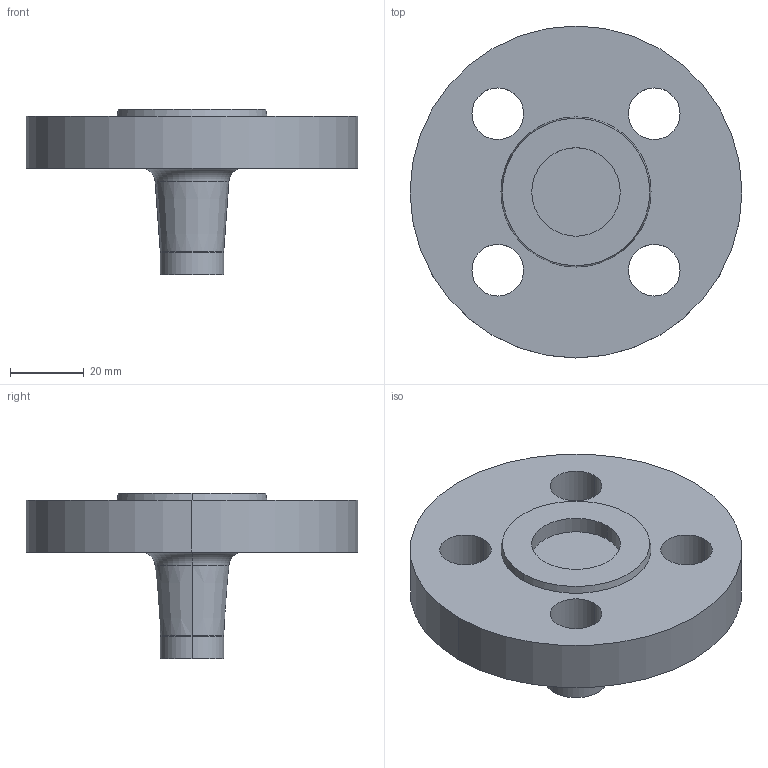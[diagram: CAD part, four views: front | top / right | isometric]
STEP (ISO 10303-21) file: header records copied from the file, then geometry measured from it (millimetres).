
FILE_DESCRIPTION (( 'STEP AP214' ), '1' );
FILE_NAME ('PN40 DN10 Type 21(ii) - Type G Face.STEP', '2018-12-29T05:04:22', ( '' ), ( '' ), 'SwSTEP 2.0', 'SolidWorks 2019', '' );
FILE_SCHEMA (( 'AUTOMOTIVE_DESIGN' ));
Length unit declared in the file: millimetre
Products named in the file (1): PN40 DN10 Type 21(ii) - Type G Face
Bounding box: 90 x 90 x 45 mm (x, y, z)
Volume: 89011.8 mm3; surface area: 19970.3 mm2
Topology: 1 solids, 1 shells, 27 faces, 60 edges, 38 vertices
Faces by surface type: cylinder 14, plane 5, torus 4, cone 4
Entity records: 818 total; most frequent: DIRECTION 158, CARTESIAN_POINT 126, ORIENTED_EDGE 120, AXIS2_PLACEMENT_3D 70, EDGE_CURVE 60, CIRCLE 42, VERTEX_POINT 38, EDGE_LOOP 38
